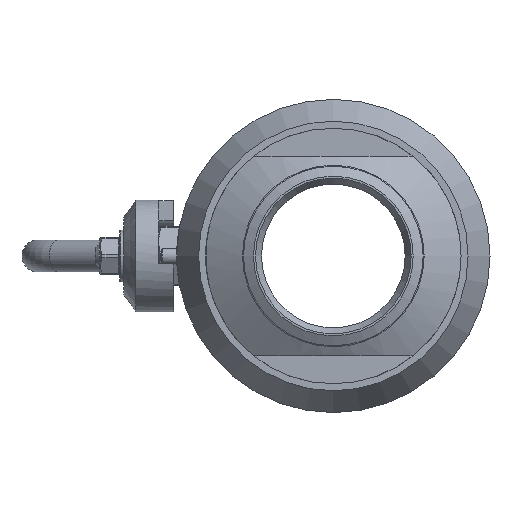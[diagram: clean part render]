
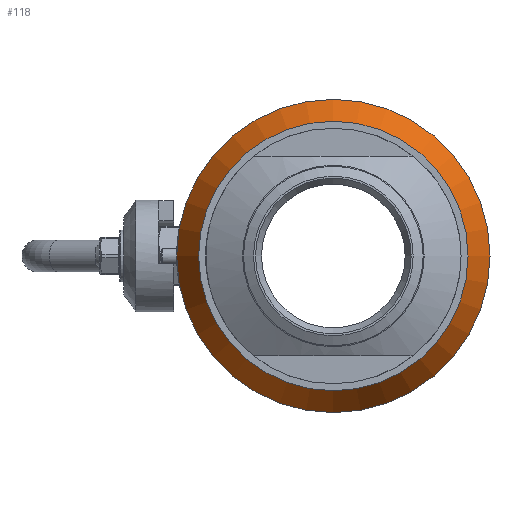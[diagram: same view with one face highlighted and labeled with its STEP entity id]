
A CAD part, left-side view. The second image highlights one B-rep face of the part: STEP entity #118.
In plain terms, the highlighted conical face has half-angle 30 degrees and reference radius 73 mm.
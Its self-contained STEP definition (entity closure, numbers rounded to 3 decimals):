
#118=ADVANCED_FACE('',(#739),#741,.T.);
#739=FACE_OUTER_BOUND('',#740,.T.);
#740=EDGE_LOOP('',(#1643,#1644,#1645,#1646));
#741=CONICAL_SURFACE('',#742,73.,0.524);
#742=AXIS2_PLACEMENT_3D('',#743,#744,#745);
#743=CARTESIAN_POINT('',(-40.474,0.,0.));
#744=DIRECTION('',(1.,0.,0.));
#745=DIRECTION('',(0.,0.,-1.));
#1643=ORIENTED_EDGE('',*,*,#2606,.T.);
#1644=ORIENTED_EDGE('',*,*,#2598,.T.);
#1645=ORIENTED_EDGE('',*,*,#2606,.F.);
#1646=ORIENTED_EDGE('',*,*,#2607,.F.);
#2598=EDGE_CURVE('',#2886,#2886,#2888,.T.);
#2606=EDGE_CURVE('',#2900,#2886,#2901,.T.);
#2607=EDGE_CURVE('',#2900,#2900,#2902,.T.);
#2886=VERTEX_POINT('',#3848);
#2888=CIRCLE('',#3852,78.5);
#2900=VERTEX_POINT('',#3885);
#2901=LINE('',#3886,#3887);
#2902=CIRCLE('',#3889,67.5);
#3848=CARTESIAN_POINT('',(-30.947,0.,78.5));
#3852=AXIS2_PLACEMENT_3D('',#3853,#3854,#3855);
#3853=CARTESIAN_POINT('',(-30.947,0.,0.));
#3854=DIRECTION('',(-1.,0.,0.));
#3855=DIRECTION('',(0.,0.,1.));
#3885=CARTESIAN_POINT('',(-50.,0.,67.5));
#3886=CARTESIAN_POINT('',(-50.,0.,67.5));
#3887=VECTOR('',#3888,1.);
#3888=DIRECTION('',(0.866,0.,0.5));
#3889=AXIS2_PLACEMENT_3D('',#3890,#3891,#3892);
#3890=CARTESIAN_POINT('',(-50.,0.,0.));
#3891=DIRECTION('',(-1.,-0.,-0.));
#3892=DIRECTION('',(0.,0.,1.));
